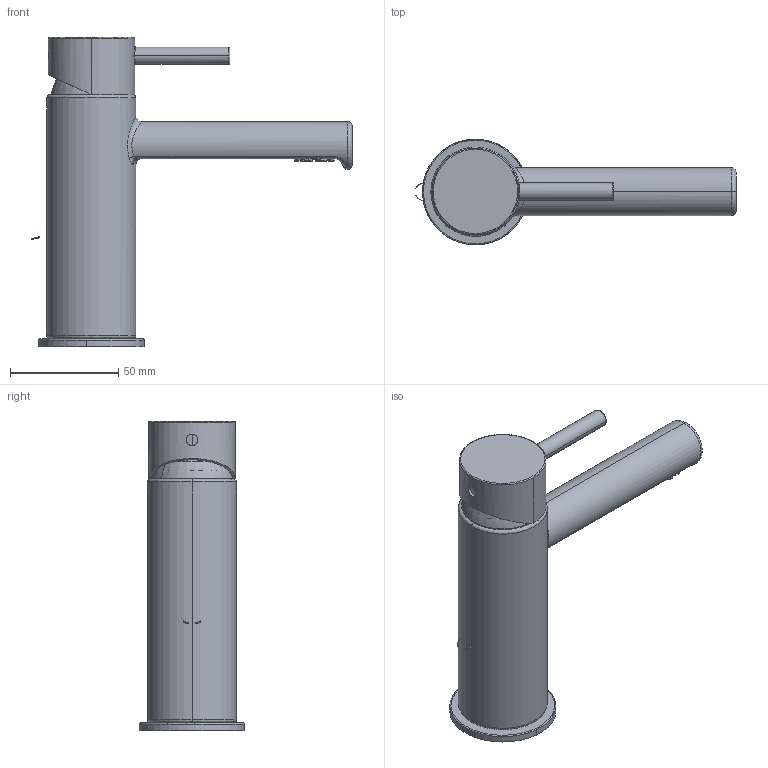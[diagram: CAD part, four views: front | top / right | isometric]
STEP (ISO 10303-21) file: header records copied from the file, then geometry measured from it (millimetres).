
FILE_DESCRIPTION (( 'STEP AP214' ), '1' );
FILE_NAME ('49311110 x architetti.STEP', '2025-04-05T04:30:49', ( '' ), ( '' ), 'SwSTEP 2.0', 'SolidWorks 2020', '' );
FILE_SCHEMA (( 'AUTOMOTIVE_DESIGN' ));
Length unit declared in the file: millimetre
Products named in the file (1): 49311110 x architetti
Bounding box: 148.15 x 48.89 x 143 mm (x, y, z)
Volume: 213275.8 mm3; surface area: 48798 mm2
Topology: 4 solids, 7 shells, 1947 faces, 5250 edges, 3273 vertices
Faces by surface type: plane 1334, cylinder 452, bspline 129, cone 28, torus 4
Entity records: 90573 total; most frequent: CARTESIAN_POINT 25756, ORIENTED_EDGE 10500, DIRECTION 7162, EDGE_CURVE 5250, VERTEX_POINT 3273, LINE 2864, VECTOR 2864, AXIS2_PLACEMENT_3D 2149
